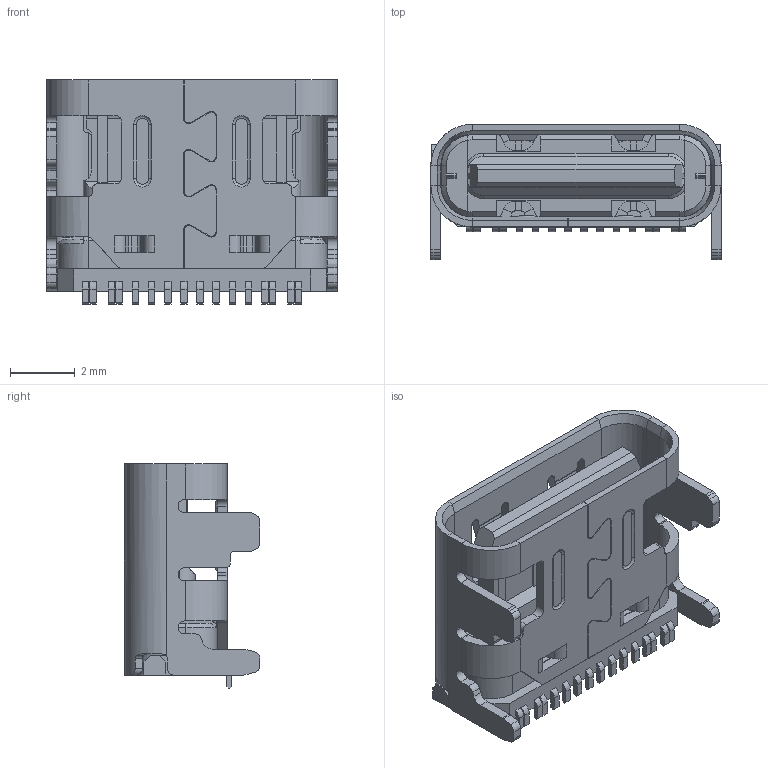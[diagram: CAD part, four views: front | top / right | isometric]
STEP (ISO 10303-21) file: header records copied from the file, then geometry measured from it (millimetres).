
FILE_DESCRIPTION((''),'2;1');
FILE_NAME('CF_16PIN_L_6_5_3D','2026-07-13T',('PMT1 SFT'),(''),'PRO/ENGINEER BY PARAMETRIC TECHNOLOGY CORPORATION, 2011490','PRO/ENGINEER BY PARAMETRIC TECHNOLOGY CORPORATION, 2011490','');
FILE_SCHEMA(('CONFIG_CONTROL_DESIGN'));
Length unit declared in the file: millimetre
Products named in the file (1): CF_16PIN_L_6_5_3D
Bounding box: 8.94 x 4.16 x 6.9 mm (x, y, z)
Volume: 92.5 mm3; surface area: 422.7 mm2
Topology: 1 solids, 1 shells, 799 faces, 2219 edges, 1408 vertices
Faces by surface type: plane 559, cylinder 198, cone 22, bspline 10, torus 8, extrusion 2
Entity records: 25773 total; most frequent: CARTESIAN_POINT 5190, ORIENTED_EDGE 4438, DIRECTION 4114, EDGE_CURVE 2219, VECTOR 1704, LINE 1702, VERTEX_POINT 1408, AXIS2_PLACEMENT_3D 1205
